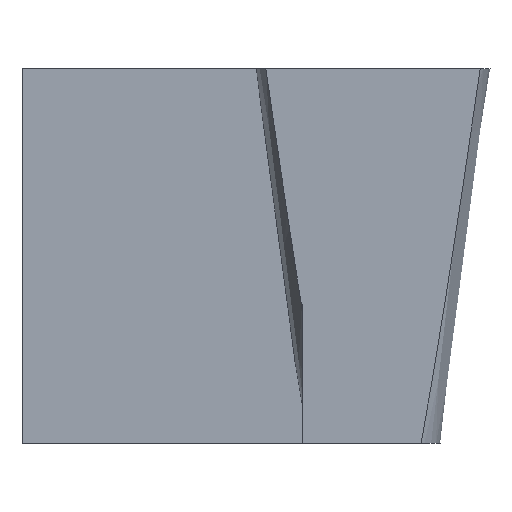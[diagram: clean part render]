
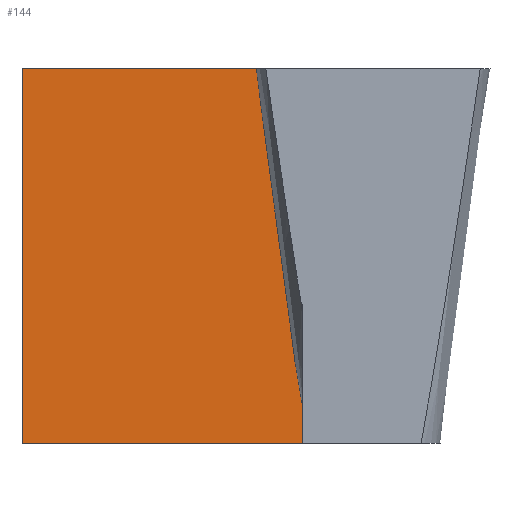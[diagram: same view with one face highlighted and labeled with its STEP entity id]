
A CAD part, left-side view. The second image highlights one B-rep face of the part: STEP entity #144.
In plain terms, the highlighted planar face has unit normal (-1, 0, 0).
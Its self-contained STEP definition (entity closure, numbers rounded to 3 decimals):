
#21 = EDGE_CURVE('',#22,#24,#26,.T.);
#22 = VERTEX_POINT('',#23);
#23 = CARTESIAN_POINT('',(22.653,8.,16.));
#24 = VERTEX_POINT('',#25);
#25 = CARTESIAN_POINT('',(22.653,20.,16.));
#26 = LINE('',#27,#28);
#27 = CARTESIAN_POINT('',(22.653,8.,16.));
#28 = VECTOR('',#29,1.);
#29 = DIRECTION('',(0.,1.,0.));
#144 = ADVANCED_FACE('',(#145),#170,.T.);
#145 = FACE_BOUND('',#146,.T.);
#146 = EDGE_LOOP('',(#147,#155,#163,#169));
#147 = ORIENTED_EDGE('',*,*,#148,.F.);
#148 = EDGE_CURVE('',#149,#24,#151,.T.);
#149 = VERTEX_POINT('',#150);
#150 = CARTESIAN_POINT('',(22.653,20.,0.));
#151 = LINE('',#152,#153);
#152 = CARTESIAN_POINT('',(22.653,20.,-208.8));
#153 = VECTOR('',#154,1.);
#154 = DIRECTION('',(0.,0.,1.));
#155 = ORIENTED_EDGE('',*,*,#156,.F.);
#156 = EDGE_CURVE('',#157,#149,#159,.T.);
#157 = VERTEX_POINT('',#158);
#158 = CARTESIAN_POINT('',(22.653,8.,0.));
#159 = LINE('',#160,#161);
#160 = CARTESIAN_POINT('',(22.653,3.5,0.));
#161 = VECTOR('',#162,1.);
#162 = DIRECTION('',(0.,1.,0.));
#163 = ORIENTED_EDGE('',*,*,#164,.T.);
#164 = EDGE_CURVE('',#157,#22,#165,.T.);
#165 = LINE('',#166,#167);
#166 = CARTESIAN_POINT('',(22.653,8.,-208.8));
#167 = VECTOR('',#168,1.);
#168 = DIRECTION('',(0.,0.,1.));
#169 = ORIENTED_EDGE('',*,*,#21,.T.);
#170 = PLANE('',#171);
#171 = AXIS2_PLACEMENT_3D('',#172,#173,#174);
#172 = CARTESIAN_POINT('',(22.653,8.,-208.8));
#173 = DIRECTION('',(-1.,0.,0.));
#174 = DIRECTION('',(0.,0.,1.));
